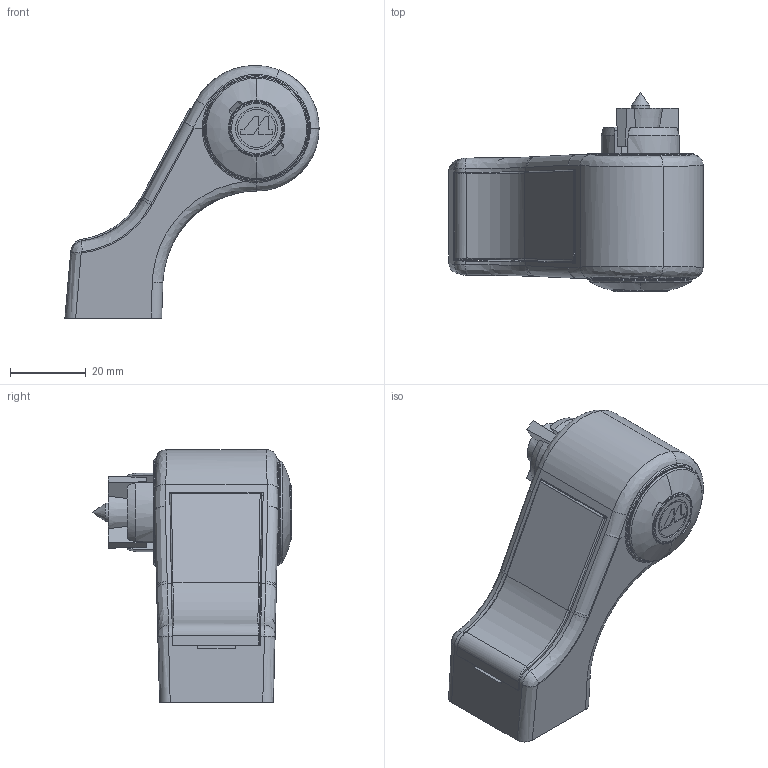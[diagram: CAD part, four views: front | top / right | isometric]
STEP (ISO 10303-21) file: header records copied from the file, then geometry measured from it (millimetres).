
FILE_DESCRIPTION (( 'STEP AP214' ), '1' );
FILE_NAME ('F31111_1.step', '2024-12-03T16:17:10', ( '' ), ( '' ), 'SwSTEP 2.0', 'SolidWorks 2023', '' );
FILE_SCHEMA (( 'AUTOMOTIVE_DESIGN' ));
Length unit declared in the file: millimetre
Products named in the file (1): F31111_1
Bounding box: 67 x 52.5 x 66.67 mm (x, y, z)
Surface area: 18725.4 mm2 (no closed solid volume)
Topology: 0 solids, 10 shells, 310 faces, 1100 edges, 770 vertices
Faces by surface type: bspline 115, plane 99, cylinder 84, cone 12
Full cylindrical faces by diameter (mm): 4.8 x1, 7 x1, 8.5 x2, 10 x1, 11 x1, 14.9 x1, 27 x1
Entity records: 25916 total; most frequent: CARTESIAN_POINT 18381, ORIENTED_EDGE 1742, EDGE_CURVE 1073, DIRECTION 1057, VERTEX_POINT 763, B_SPLINE_CURVE_WITH_KNOTS 420, LINE 399, VECTOR 399
